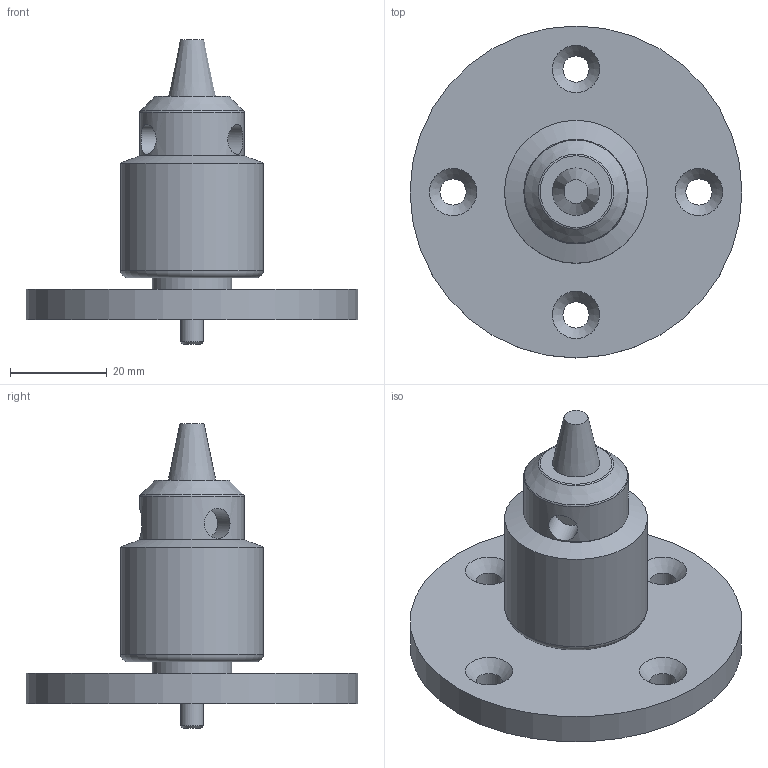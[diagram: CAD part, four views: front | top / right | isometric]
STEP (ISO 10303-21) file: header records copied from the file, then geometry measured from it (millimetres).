
FILE_DESCRIPTION((''),'2;1');
FILE_NAME('F:\CAD files\Itr\3D MARKETING MODELS\GRIPS\G1022\G1022-1.stp','2017-06-21T16:45:34',('mlampen'),(''),'Autodesk Inventor 2010','Autodesk Inventor 2010','');
FILE_SCHEMA(('AUTOMOTIVE_DESIGN { 1 0 10303 214 1 1 1 1 }'));
Length unit declared in the file: inch
Products named in the file (1): Part2
Bounding box: 68.58 x 68.58 x 62.95 mm (x, y, z)
Volume: 44411.9 mm3; surface area: 13470.4 mm2
Topology: 1 solids, 1 shells, 33 faces, 70 edges, 47 vertices
Faces by surface type: cylinder 12, plane 10, cone 8, torus 3
Full cylindrical faces by diameter (mm): 4.724 x1, 5.41 x4, 6.198 x3, 16.51 x1, 21.59 x1, 29.528 x1, 68.58 x1
Entity records: 855 total; most frequent: CARTESIAN_POINT 217, DIRECTION 134, ORIENTED_EDGE 78, EDGE_LOOP 72, AXIS2_PLACEMENT_3D 67, VERTEX_POINT 39, EDGE_CURVE 39, FACE_BOUND 39
